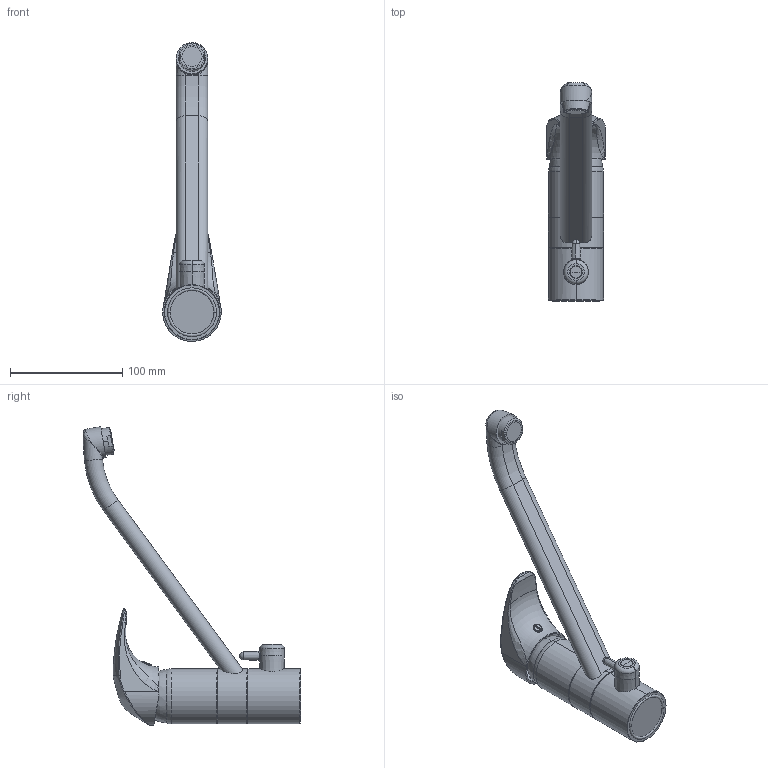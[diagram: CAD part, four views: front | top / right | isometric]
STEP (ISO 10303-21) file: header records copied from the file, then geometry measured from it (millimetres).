
FILE_DESCRIPTION((''),'2;1');
FILE_NAME('10001_SUB01_SW0002','2026-10-01T10:18:22',('simi1'),(''),'CREO PARAMETRIC BY PTC INC, 2022244','CREO PARAMETRIC BY PTC INC, 2022244','');
FILE_SCHEMA(('CONFIG_CONTROL_DESIGN'));
Length unit declared in the file: millimetre
Products named in the file (1): 10001_SUB01_SW0002
Bounding box: 52 x 193.78 x 265.68 mm (x, y, z)
Surface area: 71770.7 mm2 (no closed solid volume)
Topology: 0 solids, 43 shells, 267 faces, 1328 edges, 1076 vertices
Faces by surface type: bspline 100, plane 48, cylinder 47, torus 36, cone 26, sphere 10
Entity records: 20479 total; most frequent: CARTESIAN_POINT 12201, ORIENTED_EDGE 1770, EDGE_CURVE 1323, DIRECTION 1115, VERTEX_POINT 1076, B_SPLINE_CURVE_WITH_KNOTS 858, AXIS2_PLACEMENT_3D 483, CIRCLE 316
